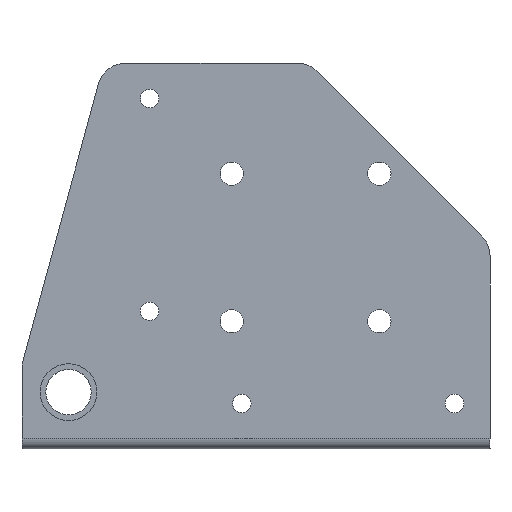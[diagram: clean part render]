
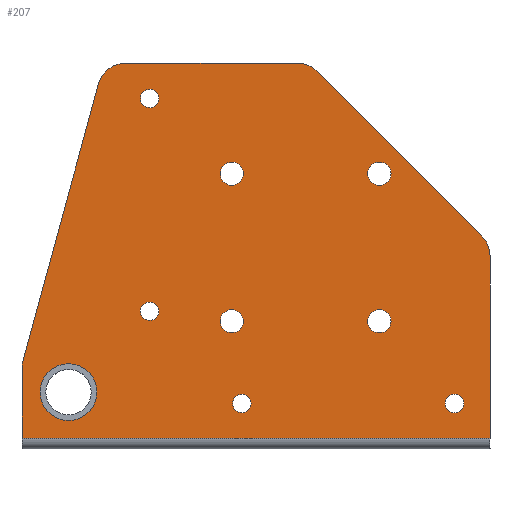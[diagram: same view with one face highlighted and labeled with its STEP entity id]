
A CAD part, top view. The second image highlights one B-rep face of the part: STEP entity #207.
In plain terms, the highlighted planar face has unit normal (0, 0, 1).
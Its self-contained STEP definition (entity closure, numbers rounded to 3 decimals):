
#207=ADVANCED_FACE('',(#435,#436,#437,#438,#439,#440,#441,#442,#443,#444),#445,.F.);
#435=FACE_BOUND('',#1653,.T.);
#436=FACE_BOUND('',#1654,.T.);
#437=FACE_BOUND('',#1655,.T.);
#438=FACE_BOUND('',#1656,.T.);
#439=FACE_BOUND('',#1657,.T.);
#440=FACE_BOUND('',#1658,.T.);
#441=FACE_BOUND('',#1659,.T.);
#442=FACE_BOUND('',#1660,.T.);
#443=FACE_BOUND('',#1661,.T.);
#444=FACE_OUTER_BOUND('',#1662,.T.);
#445=PLANE('',#1663);
#1653=EDGE_LOOP('',(#2352));
#1654=EDGE_LOOP('',(#2353));
#1655=EDGE_LOOP('',(#2354));
#1656=EDGE_LOOP('',(#2355));
#1657=EDGE_LOOP('',(#2356));
#1658=EDGE_LOOP('',(#2357));
#1659=EDGE_LOOP('',(#2358));
#1660=EDGE_LOOP('',(#2359));
#1661=EDGE_LOOP('',(#2360));
#1662=EDGE_LOOP('',(#2361,#2362,#2363,#2364,#2365,#2366,#2367,#2368,#2369,#2370));
#1663=AXIS2_PLACEMENT_3D('',#2371,#2372,#2373);
#2352=ORIENTED_EDGE('',*,*,#2547,.F.);
#2353=ORIENTED_EDGE('',*,*,#2549,.F.);
#2354=ORIENTED_EDGE('',*,*,#2619,.F.);
#2355=ORIENTED_EDGE('',*,*,#2595,.F.);
#2356=ORIENTED_EDGE('',*,*,#2631,.F.);
#2357=ORIENTED_EDGE('',*,*,#2589,.F.);
#2358=ORIENTED_EDGE('',*,*,#2638,.F.);
#2359=ORIENTED_EDGE('',*,*,#2559,.F.);
#2360=ORIENTED_EDGE('',*,*,#2497,.F.);
#2361=ORIENTED_EDGE('',*,*,#2573,.F.);
#2362=ORIENTED_EDGE('',*,*,#2442,.F.);
#2363=ORIENTED_EDGE('',*,*,#2639,.F.);
#2364=ORIENTED_EDGE('',*,*,#2606,.F.);
#2365=ORIENTED_EDGE('',*,*,#2429,.F.);
#2366=ORIENTED_EDGE('',*,*,#2600,.F.);
#2367=ORIENTED_EDGE('',*,*,#2465,.F.);
#2368=ORIENTED_EDGE('',*,*,#2625,.F.);
#2369=ORIENTED_EDGE('',*,*,#2418,.F.);
#2370=ORIENTED_EDGE('',*,*,#2449,.F.);
#2371=CARTESIAN_POINT('',(-13.659,32.657,0.));
#2372=DIRECTION('',(0.0,0.0,-1.0));
#2373=DIRECTION('',(1.0,0.0,0.0));
#2418=EDGE_CURVE('',#2656,#2652,#2658,.T.);
#2429=EDGE_CURVE('',#2676,#2672,#2678,.T.);
#2442=EDGE_CURVE('',#2699,#2694,#2701,.T.);
#2449=EDGE_CURVE('',#2710,#2656,#2712,.T.);
#2465=EDGE_CURVE('',#2739,#2735,#2741,.T.);
#2497=EDGE_CURVE('',#2794,#2794,#2795,.T.);
#2547=EDGE_CURVE('',#2875,#2875,#2876,.T.);
#2549=EDGE_CURVE('',#2878,#2878,#2879,.T.);
#2559=EDGE_CURVE('',#2892,#2892,#2893,.T.);
#2573=EDGE_CURVE('',#2694,#2710,#2914,.T.);
#2589=EDGE_CURVE('',#2933,#2933,#2934,.T.);
#2595=EDGE_CURVE('',#2942,#2942,#2943,.T.);
#2600=EDGE_CURVE('',#2735,#2676,#2948,.T.);
#2606=EDGE_CURVE('',#2672,#2953,#2955,.T.);
#2619=EDGE_CURVE('',#2970,#2970,#2971,.T.);
#2625=EDGE_CURVE('',#2652,#2739,#2977,.T.);
#2631=EDGE_CURVE('',#2983,#2983,#2984,.T.);
#2638=EDGE_CURVE('',#2991,#2991,#2992,.T.);
#2639=EDGE_CURVE('',#2953,#2699,#2993,.T.);
#2652=VERTEX_POINT('',#3006);
#2656=VERTEX_POINT('',#3012);
#2658=LINE('',#3015,#3016);
#2672=VERTEX_POINT('',#3070);
#2676=VERTEX_POINT('',#3076);
#2678=LINE('',#3079,#3080);
#2694=VERTEX_POINT('',#3136);
#2699=VERTEX_POINT('',#3142);
#2701=LINE('',#3144,#3145);
#2710=VERTEX_POINT('',#3154);
#2712=CIRCLE('',#3157,10.0);
#2735=VERTEX_POINT('',#3276);
#2739=VERTEX_POINT('',#3282);
#2741=LINE('',#3285,#3286);
#2794=VERTEX_POINT('',#3671);
#2795=CIRCLE('',#3672,4.1);
#2875=VERTEX_POINT('',#4051);
#2876=CIRCLE('',#4052,10.0);
#2878=VERTEX_POINT('',#4054);
#2879=CIRCLE('',#4055,3.25);
#2892=VERTEX_POINT('',#4128);
#2893=CIRCLE('',#4129,4.1);
#2914=LINE('',#4244,#4245);
#2933=VERTEX_POINT('',#4324);
#2934=CIRCLE('',#4325,4.1);
#2942=VERTEX_POINT('',#4371);
#2943=CIRCLE('',#4372,3.25);
#2948=CIRCLE('',#4460,10.);
#2953=VERTEX_POINT('',#4506);
#2955=CIRCLE('',#4509,10.);
#2970=VERTEX_POINT('',#4575);
#2971=CIRCLE('',#4576,3.25);
#2977=CIRCLE('',#4625,10.);
#2983=VERTEX_POINT('',#4656);
#2984=CIRCLE('',#4657,3.25);
#2991=VERTEX_POINT('',#4685);
#2992=CIRCLE('',#4686,4.1);
#2993=LINE('',#4687,#4688);
#3006=CARTESIAN_POINT('',(3.327,132.639,0.));
#3012=CARTESIAN_POINT('',(-23.304,35.296,0.));
#3015=CARTESIAN_POINT('',(-23.304,35.296,0.));
#3016=VECTOR('',#4703,1.0);
#3070=CARTESIAN_POINT('',(138.412,79.071,0.));
#3076=CARTESIAN_POINT('',(80.412,137.071,0.));
#3079=CARTESIAN_POINT('',(80.412,137.071,0.));
#3080=VECTOR('',#4709,1.0);
#3136=CARTESIAN_POINT('',(-23.659,7.75,0.));
#3142=CARTESIAN_POINT('',(141.341,7.75,0.));
#3144=CARTESIAN_POINT('',(141.341,7.75,0.));
#3145=VECTOR('',#4722,1.0);
#3154=CARTESIAN_POINT('',(-23.659,32.657,0.));
#3157=AXIS2_PLACEMENT_3D('',#4733,#4734,#4735);
#3276=CARTESIAN_POINT('',(73.341,140.0,0.));
#3282=CARTESIAN_POINT('',(12.973,140.0,0.));
#3285=CARTESIAN_POINT('',(12.973,140.0,0.));
#3286=VECTOR('',#4747,1.0);
#3671=CARTESIAN_POINT('',(46.241,49.0,0.));
#3672=AXIS2_PLACEMENT_3D('',#4768,#4769,#4770);
#4051=CARTESIAN_POINT('',(-17.259,24.0,0.));
#4052=AXIS2_PLACEMENT_3D('',#4853,#4854,#4855);
#4054=CARTESIAN_POINT('',(125.591,20.0,0.));
#4055=AXIS2_PLACEMENT_3D('',#4856,#4857,#4858);
#4128=CARTESIAN_POINT('',(46.241,101.0,0.));
#4129=AXIS2_PLACEMENT_3D('',#4862,#4863,#4864);
#4244=CARTESIAN_POINT('',(-23.659,4.,0.));
#4245=VECTOR('',#4875,1.0);
#4324=CARTESIAN_POINT('',(98.241,49.0,0.));
#4325=AXIS2_PLACEMENT_3D('',#4882,#4883,#4884);
#4371=CARTESIAN_POINT('',(18.091,52.5,0.));
#4372=AXIS2_PLACEMENT_3D('',#4885,#4886,#4887);
#4460=AXIS2_PLACEMENT_3D('',#4888,#4889,#4890);
#4506=CARTESIAN_POINT('',(141.341,72.0,0.));
#4509=AXIS2_PLACEMENT_3D('',#4892,#4893,#4894);
#4575=CARTESIAN_POINT('',(50.591,20.0,0.));
#4576=AXIS2_PLACEMENT_3D('',#4901,#4902,#4903);
#4625=AXIS2_PLACEMENT_3D('',#4904,#4905,#4906);
#4656=CARTESIAN_POINT('',(18.091,127.5,0.));
#4657=AXIS2_PLACEMENT_3D('',#4907,#4908,#4909);
#4685=CARTESIAN_POINT('',(98.241,101.0,0.));
#4686=AXIS2_PLACEMENT_3D('',#4911,#4912,#4913);
#4687=CARTESIAN_POINT('',(141.341,72.0,0.));
#4688=VECTOR('',#4914,1.0);
#4703=DIRECTION('',(0.264,0.965,0.0));
#4709=DIRECTION('',(0.707,-0.707,0.0));
#4722=DIRECTION('',(-1.0,0.0,0.0));
#4733=CARTESIAN_POINT('',(-13.659,32.657,0.));
#4734=DIRECTION('',(0.0,0.0,-1.0));
#4735=DIRECTION('',(1.0,0.0,0.0));
#4747=DIRECTION('',(1.0,0.0,0.0));
#4768=CARTESIAN_POINT('',(50.341,49.0,0.));
#4769=DIRECTION('',(0.0,0.0,1.0));
#4770=DIRECTION('',(-1.0,0.0,0.0));
#4853=CARTESIAN_POINT('',(-7.259,24.0,0.));
#4854=DIRECTION('',(0.0,0.0,1.0));
#4855=DIRECTION('',(-1.0,0.0,0.0));
#4856=CARTESIAN_POINT('',(128.841,20.0,0.));
#4857=DIRECTION('',(0.0,0.0,1.0));
#4858=DIRECTION('',(-1.0,0.0,0.0));
#4862=CARTESIAN_POINT('',(50.341,101.0,0.));
#4863=DIRECTION('',(0.0,0.0,1.0));
#4864=DIRECTION('',(-1.0,0.0,0.0));
#4875=DIRECTION('',(0.0,1.0,0.0));
#4882=CARTESIAN_POINT('',(102.341,49.0,0.));
#4883=DIRECTION('',(0.0,0.0,1.0));
#4884=DIRECTION('',(-1.0,0.0,0.0));
#4885=CARTESIAN_POINT('',(21.341,52.5,0.));
#4886=DIRECTION('',(0.0,0.0,1.0));
#4887=DIRECTION('',(-1.0,0.0,0.0));
#4888=CARTESIAN_POINT('',(73.341,130.0,0.));
#4889=DIRECTION('',(0.0,0.0,-1.0));
#4890=DIRECTION('',(1.0,0.0,0.0));
#4892=CARTESIAN_POINT('',(131.341,72.0,0.));
#4893=DIRECTION('',(0.0,0.0,-1.0));
#4894=DIRECTION('',(1.0,0.0,0.0));
#4901=CARTESIAN_POINT('',(53.841,20.0,0.));
#4902=DIRECTION('',(0.0,0.0,1.0));
#4903=DIRECTION('',(-1.0,0.0,0.0));
#4904=CARTESIAN_POINT('',(12.973,130.0,0.));
#4905=DIRECTION('',(0.0,0.0,-1.0));
#4906=DIRECTION('',(1.0,0.0,0.0));
#4907=CARTESIAN_POINT('',(21.341,127.5,0.));
#4908=DIRECTION('',(0.0,0.0,1.0));
#4909=DIRECTION('',(-1.0,0.0,0.0));
#4911=CARTESIAN_POINT('',(102.341,101.0,0.));
#4912=DIRECTION('',(0.0,0.0,1.0));
#4913=DIRECTION('',(-1.0,0.0,0.0));
#4914=DIRECTION('',(0.0,-1.0,0.0));
